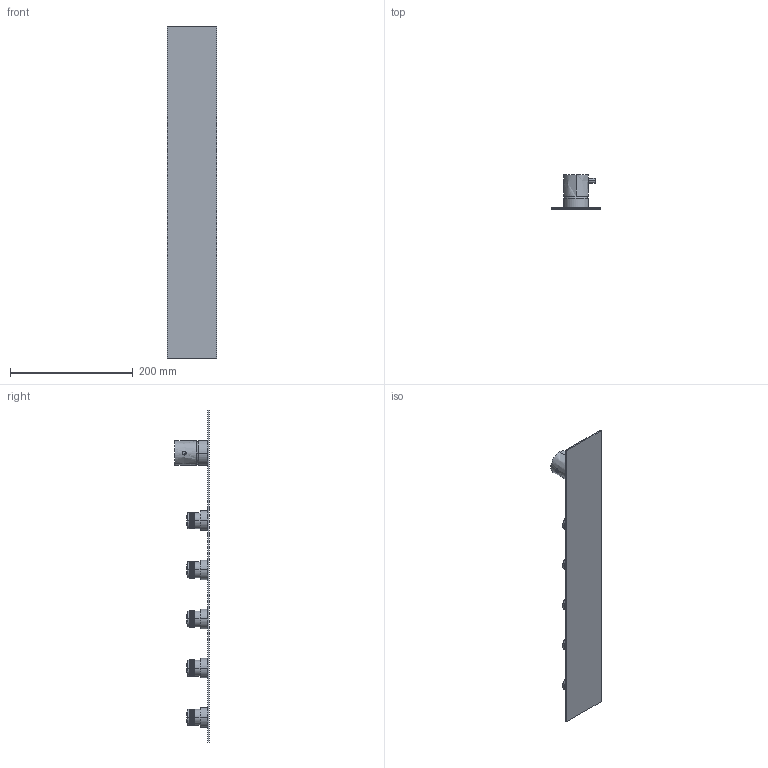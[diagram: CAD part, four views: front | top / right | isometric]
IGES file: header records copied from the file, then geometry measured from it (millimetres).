
Start section:  PTC IGES file: 69000v5.igs
Global section: file name: 69000v5.igs; native system: Creo Parametric by PTC Inc.; preprocessor: 2022014; author: carloff; organization: Unknown; date: 20251125.151304; units: millimetre
Bounding box: 80 x 55.7 x 540 mm (x, y, z)
Surface area: 112764.6 mm2 (no closed solid volume)
Topology: 0 solids, 0 shells, 8223 faces, 40968 edges, 40956 vertices
Faces by surface type: bspline 6431, revolution 1792
